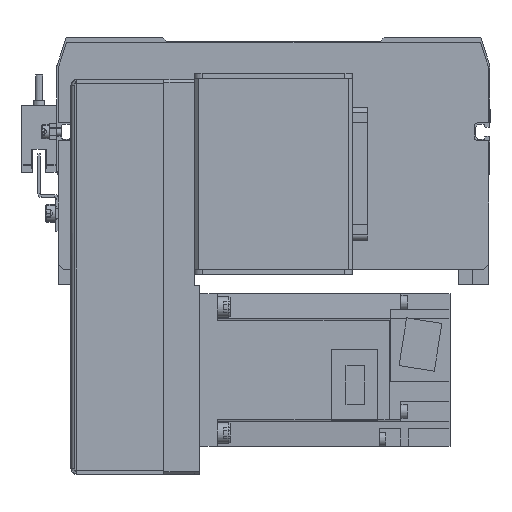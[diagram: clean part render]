
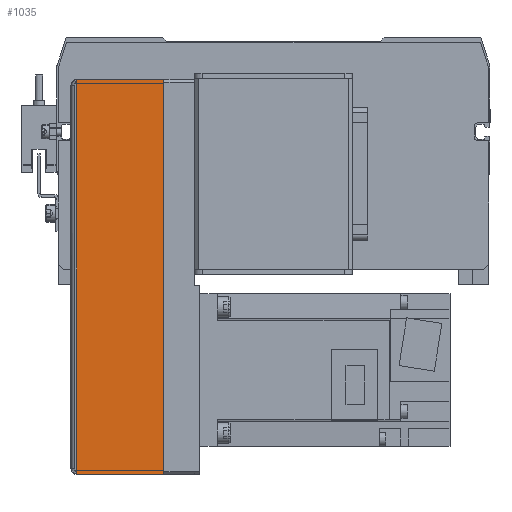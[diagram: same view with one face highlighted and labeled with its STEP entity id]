
A CAD part, front view. The second image highlights one B-rep face of the part: STEP entity #1035.
In plain terms, the highlighted planar face has unit normal (0, -1, 0) as drawn and (0, 1, 0) by its records, which use the part's own axes.
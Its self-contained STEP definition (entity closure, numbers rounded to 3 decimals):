
#78 = CARTESIAN_POINT ( 'NONE',  ( 0.737, 59.837, -134.327 ) ) ;
#1035 = ADVANCED_FACE ( 'NONE', ( #21672 ), #13235, .F. ) ;
#2685 = EDGE_CURVE ( 'NONE', #12084, #11866, #20522, .T. ) ;
#4024 = DIRECTION ( 'NONE',  ( 1., 0., 0. ) ) ;
#4623 = ORIENTED_EDGE ( 'NONE', *, *, #30950, .F. ) ;
#8559 = DIRECTION ( 'NONE',  ( 1., 0., 0. ) ) ;
#11433 = CARTESIAN_POINT ( 'NONE',  ( 0.737, 59.837, -134.327 ) ) ;
#11849 = LINE ( 'NONE', #78, #36174 ) ;
#11866 = VERTEX_POINT ( 'NONE', #38144 ) ;
#12084 = VERTEX_POINT ( 'NONE', #38960 ) ;
#13235 = PLANE ( 'NONE',  #34262 ) ;
#14770 = VECTOR ( 'NONE', #20513, 1000. ) ;
#15768 = EDGE_LOOP ( 'NONE', ( #4623, #20488, #15992, #41794 ) ) ;
#15992 = ORIENTED_EDGE ( 'NONE', *, *, #21955, .F. ) ;
#18433 = LINE ( 'NONE', #34362, #35132 ) ;
#20315 = DIRECTION ( 'NONE',  ( 0., -1., 0. ) ) ;
#20488 = ORIENTED_EDGE ( 'NONE', *, *, #2685, .T. ) ;
#20513 = DIRECTION ( 'NONE',  ( 0., 0., 1. ) ) ;
#20522 = LINE ( 'NONE', #26858, #21021 ) ;
#21021 = VECTOR ( 'NONE', #30115, 1000. ) ;
#21059 = EDGE_CURVE ( 'NONE', #26723, #29112, #18433, .T. ) ;
#21672 = FACE_OUTER_BOUND ( 'NONE', #15768, .T. ) ;
#21955 = EDGE_CURVE ( 'NONE', #29112, #11866, #31532, .T. ) ;
#26723 = VERTEX_POINT ( 'NONE', #11433 ) ;
#26858 = CARTESIAN_POINT ( 'NONE',  ( 0.737, 59.837, 20.673 ) ) ;
#29112 = VERTEX_POINT ( 'NONE', #34247 ) ;
#30115 = DIRECTION ( 'NONE',  ( 1., 0., 0. ) ) ;
#30950 = EDGE_CURVE ( 'NONE', #12084, #26723, #11849, .T. ) ;
#31532 = LINE ( 'NONE', #39762, #14770 ) ;
#34247 = CARTESIAN_POINT ( 'NONE',  ( 35., 59.837, -134.327 ) ) ;
#34262 = AXIS2_PLACEMENT_3D ( 'NONE', #35903, #20315, #4024 ) ;
#34362 = CARTESIAN_POINT ( 'NONE',  ( 0.737, 59.837, -134.327 ) ) ;
#35132 = VECTOR ( 'NONE', #8559, 1000. ) ;
#35455 = DIRECTION ( 'NONE',  ( 0., 0., -1. ) ) ;
#35903 = CARTESIAN_POINT ( 'NONE',  ( 0., 59.837, 0. ) ) ;
#36174 = VECTOR ( 'NONE', #35455, 1000. ) ;
#38144 = CARTESIAN_POINT ( 'NONE',  ( 35., 59.837, 20.673 ) ) ;
#38960 = CARTESIAN_POINT ( 'NONE',  ( 0.737, 59.837, 20.673 ) ) ;
#39762 = CARTESIAN_POINT ( 'NONE',  ( 35., 59.837, -134.327 ) ) ;
#41794 = ORIENTED_EDGE ( 'NONE', *, *, #21059, .F. ) ;
